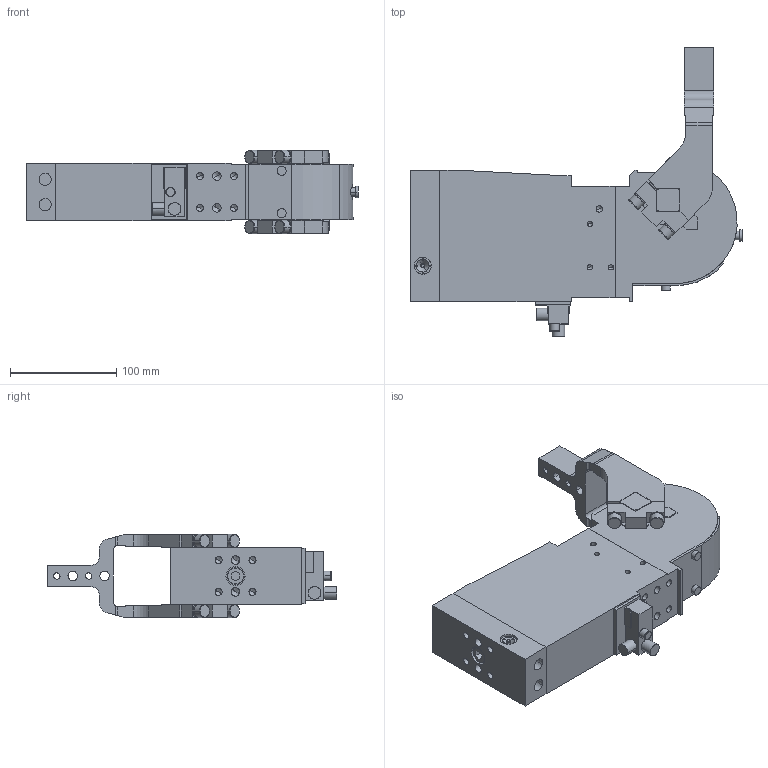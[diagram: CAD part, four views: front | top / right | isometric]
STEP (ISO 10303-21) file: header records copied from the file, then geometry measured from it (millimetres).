
FILE_DESCRIPTION(('CATIA V5 STEP Exchange'),'2;1');
FILE_NAME('G:\Konstruktion\Modelle\UPLOAD\APH_63_H_BR5_A10_T12_TUENKERS.stp','2015-09-07T07:53:52+00:00',('none'),('none'),'CATIA Version 5 Release 19 SP 9 (IN-10)','CATIA V5 STEP AP214','none');
FILE_SCHEMA(('AUTOMOTIVE_DESIGN { 1 0 10303 214 1 1 1 1 }'));
Length unit declared in the file: millimetre
Products named in the file (1): APH_63_H_BR5_A10_T12_TUENKERS
Bounding box: 313.02 x 272.9 x 79 mm (x, y, z)
Volume: 1986396.3 mm3; surface area: 174206.2 mm2
Topology: 2 solids, 9 shells, 541 faces, 1418 edges, 882 vertices
Faces by surface type: plane 248, cylinder 179, cone 86, bspline 16, torus 10, revolution 2
Entity records: 16435 total; most frequent: CARTESIAN_POINT 2963, ORIENTED_EDGE 2688, DIRECTION 1828, EDGE_CURVE 1344, VERTEX_POINT 882, VECTOR 789, LINE 789, AXIS2_PLACEMENT_3D 756
